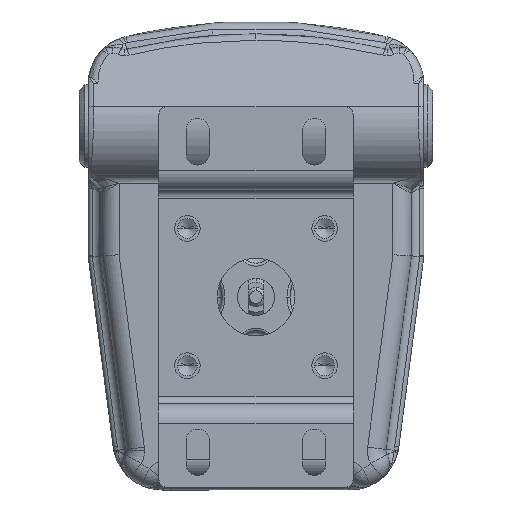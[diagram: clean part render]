
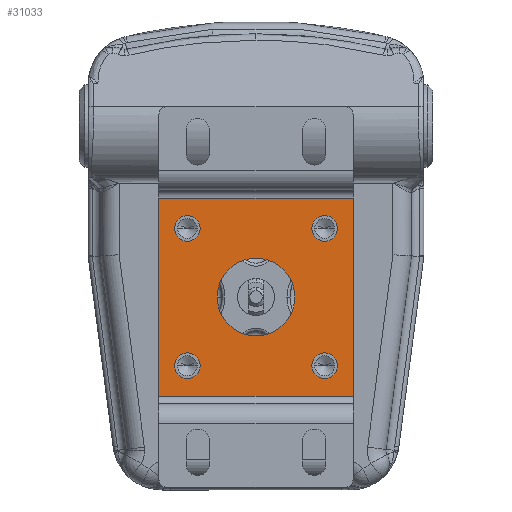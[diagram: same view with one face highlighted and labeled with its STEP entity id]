
A CAD part, front view. The second image highlights one B-rep face of the part: STEP entity #31033.
In plain terms, the highlighted planar face has unit normal (0, -1, 0).
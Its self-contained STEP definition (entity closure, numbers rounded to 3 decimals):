
#250 = CIRCLE ( 'NONE', #29619, 3.3 ) ;
#674 = VERTEX_POINT ( 'NONE', #34128 ) ;
#797 = CIRCLE ( 'NONE', #6089, 10. ) ;
#989 = CARTESIAN_POINT ( 'NONE',  ( -17.678, 29.258, -20.978 ) ) ;
#1132 = CARTESIAN_POINT ( 'NONE',  ( 0., 29.258, -10. ) ) ;
#1424 = CARTESIAN_POINT ( 'NONE',  ( 25.5, 29.258, 25. ) ) ;
#1844 = CARTESIAN_POINT ( 'NONE',  ( -17.678, 29.258, 20.978 ) ) ;
#1933 = DIRECTION ( 'NONE',  ( 0., 0., 1. ) ) ;
#2306 = EDGE_LOOP ( 'NONE', ( #17218, #13146 ) ) ;
#2409 = ORIENTED_EDGE ( 'NONE', *, *, #15416, .T. ) ;
#3056 = CARTESIAN_POINT ( 'NONE',  ( 25.5, 29.258, -25. ) ) ;
#4111 = AXIS2_PLACEMENT_3D ( 'NONE', #36939, #37060, #19384 ) ;
#4592 = CARTESIAN_POINT ( 'NONE',  ( 17.678, 29.258, 17.678 ) ) ;
#4986 = FACE_BOUND ( 'NONE', #2306, .T. ) ;
#5427 = CARTESIAN_POINT ( 'NONE',  ( 17.678, 29.258, -14.378 ) ) ;
#5584 = DIRECTION ( 'NONE',  ( 0., 0., 1. ) ) ;
#5924 = FACE_BOUND ( 'NONE', #20599, .T. ) ;
#6089 = AXIS2_PLACEMENT_3D ( 'NONE', #23749, #8761, #23353 ) ;
#6095 = VERTEX_POINT ( 'NONE', #5427 ) ;
#6706 = CARTESIAN_POINT ( 'NONE',  ( 0., 29.258, 0. ) ) ;
#7224 = ORIENTED_EDGE ( 'NONE', *, *, #11286, .F. ) ;
#7264 = CARTESIAN_POINT ( 'NONE',  ( -17.678, 29.258, 14.378 ) ) ;
#7619 = ORIENTED_EDGE ( 'NONE', *, *, #31177, .F. ) ;
#7631 = CARTESIAN_POINT ( 'NONE',  ( -25.5, 29.258, 25. ) ) ;
#7687 = ORIENTED_EDGE ( 'NONE', *, *, #37719, .F. ) ;
#7933 = DIRECTION ( 'NONE',  ( 0., -1., 0. ) ) ;
#7991 = CARTESIAN_POINT ( 'NONE',  ( 17.678, 29.258, -17.678 ) ) ;
#8264 = CIRCLE ( 'NONE', #26972, 3.3 ) ;
#8560 = CARTESIAN_POINT ( 'NONE',  ( 17.678, 29.258, 20.978 ) ) ;
#8761 = DIRECTION ( 'NONE',  ( 0., -1., 0. ) ) ;
#9685 = DIRECTION ( 'NONE',  ( 0., 0., -1. ) ) ;
#9780 = CARTESIAN_POINT ( 'NONE',  ( -17.678, 29.258, -14.378 ) ) ;
#10161 = DIRECTION ( 'NONE',  ( 0., -1., 0. ) ) ;
#10333 = DIRECTION ( 'NONE',  ( 1., 0., 0. ) ) ;
#10416 = CIRCLE ( 'NONE', #36028, 10. ) ;
#10550 = DIRECTION ( 'NONE',  ( 0., 0., 1. ) ) ;
#10573 = FACE_BOUND ( 'NONE', #21277, .T. ) ;
#10820 = VERTEX_POINT ( 'NONE', #7631 ) ;
#10863 = ORIENTED_EDGE ( 'NONE', *, *, #33057, .F. ) ;
#11188 = DIRECTION ( 'NONE',  ( 0., 0., 1. ) ) ;
#11277 = VECTOR ( 'NONE', #14146, 1000. ) ;
#11286 = EDGE_CURVE ( 'NONE', #21681, #28649, #12534, .T. ) ;
#11679 = CARTESIAN_POINT ( 'NONE',  ( -17.678, 29.258, -17.678 ) ) ;
#12534 = CIRCLE ( 'NONE', #19446, 3.3 ) ;
#12984 = AXIS2_PLACEMENT_3D ( 'NONE', #24499, #10161, #21658 ) ;
#13146 = ORIENTED_EDGE ( 'NONE', *, *, #16486, .F. ) ;
#13301 = AXIS2_PLACEMENT_3D ( 'NONE', #7991, #32100, #20021 ) ;
#13500 = EDGE_LOOP ( 'NONE', ( #7687, #7224 ) ) ;
#13745 = DIRECTION ( 'NONE',  ( 0., 0., 1. ) ) ;
#14146 = DIRECTION ( 'NONE',  ( 0., 0., 1. ) ) ;
#14258 = CARTESIAN_POINT ( 'NONE',  ( 25.5, 29.258, -25. ) ) ;
#14322 = AXIS2_PLACEMENT_3D ( 'NONE', #11679, #14367, #35128 ) ;
#14367 = DIRECTION ( 'NONE',  ( 0., -1., 0. ) ) ;
#14464 = ORIENTED_EDGE ( 'NONE', *, *, #28237, .F. ) ;
#15416 = EDGE_CURVE ( 'NONE', #24503, #15566, #30065, .T. ) ;
#15490 = CIRCLE ( 'NONE', #25134, 3.3 ) ;
#15500 = VERTEX_POINT ( 'NONE', #1132 ) ;
#15518 = CARTESIAN_POINT ( 'NONE',  ( 17.678, 29.258, 14.378 ) ) ;
#15566 = VERTEX_POINT ( 'NONE', #14258 ) ;
#15826 = VERTEX_POINT ( 'NONE', #7264 ) ;
#16241 = VERTEX_POINT ( 'NONE', #15518 ) ;
#16486 = EDGE_CURVE ( 'NONE', #19011, #15500, #797, .T. ) ;
#16799 = DIRECTION ( 'NONE',  ( 0., -1., 0. ) ) ;
#17218 = ORIENTED_EDGE ( 'NONE', *, *, #27920, .F. ) ;
#17700 = EDGE_LOOP ( 'NONE', ( #27081, #21720 ) ) ;
#18293 = CARTESIAN_POINT ( 'NONE',  ( 25.5, 29.258, 25. ) ) ;
#18991 = EDGE_CURVE ( 'NONE', #25258, #16241, #250, .T. ) ;
#19002 = EDGE_CURVE ( 'NONE', #15826, #26377, #22870, .T. ) ;
#19011 = VERTEX_POINT ( 'NONE', #37526 ) ;
#19131 = LINE ( 'NONE', #25536, #11277 ) ;
#19139 = LINE ( 'NONE', #22702, #29812 ) ;
#19199 = EDGE_LOOP ( 'NONE', ( #35745, #10863, #14464, #2409 ) ) ;
#19348 = CIRCLE ( 'NONE', #13301, 3.3 ) ;
#19384 = DIRECTION ( 'NONE',  ( 0., 0., -1. ) ) ;
#19446 = AXIS2_PLACEMENT_3D ( 'NONE', #33524, #33410, #1933 ) ;
#19603 = DIRECTION ( 'NONE',  ( 0., 0., 1. ) ) ;
#19816 = EDGE_CURVE ( 'NONE', #15566, #32503, #19131, .T. ) ;
#20021 = DIRECTION ( 'NONE',  ( 0., 0., 1. ) ) ;
#20599 = EDGE_LOOP ( 'NONE', ( #36440, #7619 ) ) ;
#21277 = EDGE_LOOP ( 'NONE', ( #28956, #33827 ) ) ;
#21307 = DIRECTION ( 'NONE',  ( 0., -1., 0. ) ) ;
#21658 = DIRECTION ( 'NONE',  ( 0., 0., 1. ) ) ;
#21681 = VERTEX_POINT ( 'NONE', #9780 ) ;
#21720 = ORIENTED_EDGE ( 'NONE', *, *, #21770, .F. ) ;
#21770 = EDGE_CURVE ( 'NONE', #26377, #15826, #35270, .T. ) ;
#22686 = CARTESIAN_POINT ( 'NONE',  ( -17.678, 29.258, 17.678 ) ) ;
#22702 = CARTESIAN_POINT ( 'NONE',  ( -25.5, 29.258, -25. ) ) ;
#22870 = CIRCLE ( 'NONE', #24162, 3.3 ) ;
#23353 = DIRECTION ( 'NONE',  ( 0., 0., -1. ) ) ;
#23355 = VECTOR ( 'NONE', #10333, 1000. ) ;
#23503 = FACE_BOUND ( 'NONE', #17700, .T. ) ;
#23749 = CARTESIAN_POINT ( 'NONE',  ( 0., 29.258, 0. ) ) ;
#24076 = CIRCLE ( 'NONE', #14322, 3.3 ) ;
#24162 = AXIS2_PLACEMENT_3D ( 'NONE', #22686, #31675, #13745 ) ;
#24499 = CARTESIAN_POINT ( 'NONE',  ( -17.678, 29.258, 17.678 ) ) ;
#24503 = VERTEX_POINT ( 'NONE', #26069 ) ;
#25134 = AXIS2_PLACEMENT_3D ( 'NONE', #26190, #25928, #11188 ) ;
#25258 = VERTEX_POINT ( 'NONE', #8560 ) ;
#25536 = CARTESIAN_POINT ( 'NONE',  ( 25.5, 29.258, -25. ) ) ;
#25928 = DIRECTION ( 'NONE',  ( 0., -1., 0. ) ) ;
#26069 = CARTESIAN_POINT ( 'NONE',  ( -25.5, 29.258, -25. ) ) ;
#26190 = CARTESIAN_POINT ( 'NONE',  ( 17.678, 29.258, -17.678 ) ) ;
#26377 = VERTEX_POINT ( 'NONE', #1844 ) ;
#26582 = EDGE_CURVE ( 'NONE', #16241, #25258, #8264, .T. ) ;
#26972 = AXIS2_PLACEMENT_3D ( 'NONE', #34585, #16799, #5584 ) ;
#27081 = ORIENTED_EDGE ( 'NONE', *, *, #19002, .F. ) ;
#27233 = FACE_OUTER_BOUND ( 'NONE', #19199, .T. ) ;
#27523 = LINE ( 'NONE', #1424, #23355 ) ;
#27920 = EDGE_CURVE ( 'NONE', #15500, #19011, #10416, .T. ) ;
#28072 = PLANE ( 'NONE',  #4111 ) ;
#28237 = EDGE_CURVE ( 'NONE', #24503, #10820, #19139, .T. ) ;
#28649 = VERTEX_POINT ( 'NONE', #989 ) ;
#28956 = ORIENTED_EDGE ( 'NONE', *, *, #26582, .F. ) ;
#29089 = FACE_BOUND ( 'NONE', #13500, .T. ) ;
#29619 = AXIS2_PLACEMENT_3D ( 'NONE', #4592, #7933, #10550 ) ;
#29812 = VECTOR ( 'NONE', #19603, 1000. ) ;
#30065 = LINE ( 'NONE', #3056, #31936 ) ;
#31033 = ADVANCED_FACE ( 'NONE', ( #27233, #23503, #29089, #10573, #5924, #4986 ), #28072, .T. ) ;
#31177 = EDGE_CURVE ( 'NONE', #6095, #674, #19348, .T. ) ;
#31675 = DIRECTION ( 'NONE',  ( 0., -1., 0. ) ) ;
#31936 = VECTOR ( 'NONE', #32465, 1000. ) ;
#32100 = DIRECTION ( 'NONE',  ( 0., -1., 0. ) ) ;
#32465 = DIRECTION ( 'NONE',  ( 1., 0., 0. ) ) ;
#32503 = VERTEX_POINT ( 'NONE', #18293 ) ;
#33057 = EDGE_CURVE ( 'NONE', #10820, #32503, #27523, .T. ) ;
#33182 = EDGE_CURVE ( 'NONE', #674, #6095, #15490, .T. ) ;
#33410 = DIRECTION ( 'NONE',  ( 0., -1., 0. ) ) ;
#33524 = CARTESIAN_POINT ( 'NONE',  ( -17.678, 29.258, -17.678 ) ) ;
#33827 = ORIENTED_EDGE ( 'NONE', *, *, #18991, .F. ) ;
#34128 = CARTESIAN_POINT ( 'NONE',  ( 17.678, 29.258, -20.978 ) ) ;
#34585 = CARTESIAN_POINT ( 'NONE',  ( 17.678, 29.258, 17.678 ) ) ;
#35128 = DIRECTION ( 'NONE',  ( 0., 0., 1. ) ) ;
#35270 = CIRCLE ( 'NONE', #12984, 3.3 ) ;
#35745 = ORIENTED_EDGE ( 'NONE', *, *, #19816, .T. ) ;
#36028 = AXIS2_PLACEMENT_3D ( 'NONE', #6706, #21307, #9685 ) ;
#36440 = ORIENTED_EDGE ( 'NONE', *, *, #33182, .F. ) ;
#36939 = CARTESIAN_POINT ( 'NONE',  ( 25.5, 29.258, -25. ) ) ;
#37060 = DIRECTION ( 'NONE',  ( 0., -1., 0. ) ) ;
#37526 = CARTESIAN_POINT ( 'NONE',  ( 0., 29.258, 10. ) ) ;
#37719 = EDGE_CURVE ( 'NONE', #28649, #21681, #24076, .T. ) ;
